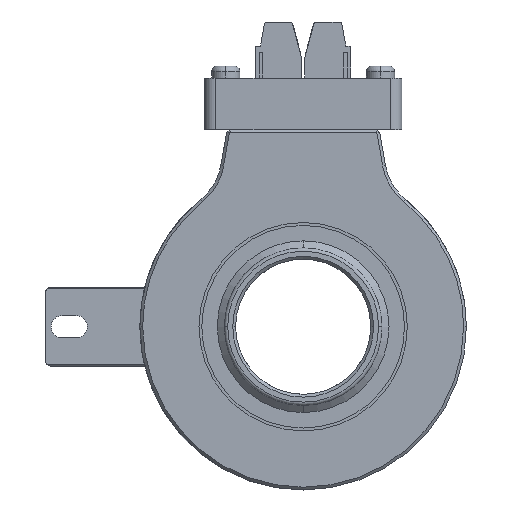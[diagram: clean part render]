
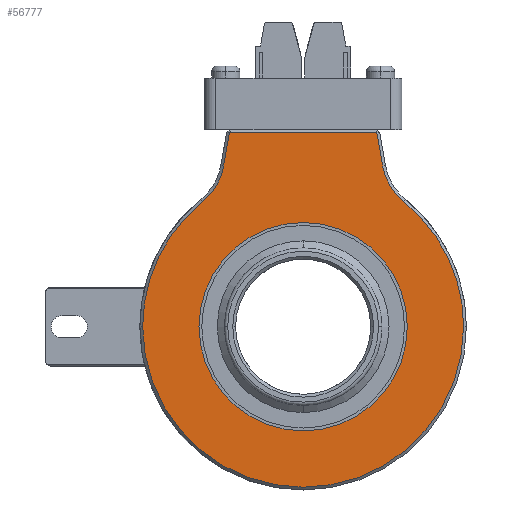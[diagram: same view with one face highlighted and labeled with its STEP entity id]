
A CAD part, left-side view. The second image highlights one B-rep face of the part: STEP entity #56777.
In plain terms, the highlighted planar face has unit normal (-1, 0, 0).
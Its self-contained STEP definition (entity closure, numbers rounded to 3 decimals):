
#226 = CARTESIAN_POINT ( 'NONE',  ( -27., 19.46, -1.682 ) ) ;
#596 = CARTESIAN_POINT ( 'NONE',  ( -27., 18.5, 0. ) ) ;
#755 = ORIENTED_EDGE ( 'NONE', *, *, #73921, .T. ) ;
#1826 = AXIS2_PLACEMENT_3D ( 'NONE', #51874, #52361, #20347 ) ;
#1848 = DIRECTION ( 'NONE',  ( 0., 1., 0. ) ) ;
#2343 = FACE_OUTER_BOUND ( 'NONE', #10153, .T. ) ;
#3383 = CIRCLE ( 'NONE', #1826, 28.5 ) ;
#4486 = CARTESIAN_POINT ( 'NONE',  ( -27., -28.5, 0. ) ) ;
#6566 = VERTEX_POINT ( 'NONE', #27190 ) ;
#7076 = VERTEX_POINT ( 'NONE', #96285 ) ;
#7899 = EDGE_CURVE ( 'NONE', #79160, #7076, #73267, .T. ) ;
#10153 = EDGE_LOOP ( 'NONE', ( #86526, #92249, #55178, #78159, #48212, #57524, #50231, #11897 ) ) ;
#10500 = CARTESIAN_POINT ( 'NONE',  ( -27., 0., 0. ) ) ;
#11276 = CARTESIAN_POINT ( 'NONE',  ( -27., 29., 34.5 ) ) ;
#11897 = ORIENTED_EDGE ( 'NONE', *, *, #72899, .T. ) ;
#15493 = AXIS2_PLACEMENT_3D ( 'NONE', #67565, #44046, #59556 ) ;
#16832 = DIRECTION ( 'NONE',  ( 0., -1., 0. ) ) ;
#17399 = VECTOR ( 'NONE', #75781, 1000. ) ;
#17401 = EDGE_CURVE ( 'NONE', #33168, #38151, #76129, .T. ) ;
#17829 = FACE_BOUND ( 'NONE', #42127, .T. ) ;
#18319 = DIRECTION ( 'NONE',  ( -1., 0., 0. ) ) ;
#18357 = AXIS2_PLACEMENT_3D ( 'NONE', #10500, #41026, #34019 ) ;
#19381 = DIRECTION ( 'NONE',  ( -1., 0., 0. ) ) ;
#20347 = DIRECTION ( 'NONE',  ( 0., -1., 0. ) ) ;
#20360 = CIRCLE ( 'NONE', #44296, 10.5 ) ;
#20753 = DIRECTION ( 'NONE',  ( 0., -1., 0. ) ) ;
#24841 = CARTESIAN_POINT ( 'NONE',  ( -27., 29., 0. ) ) ;
#27190 = CARTESIAN_POINT ( 'NONE',  ( -27., 17.883, 22.191 ) ) ;
#28034 = AXIS2_PLACEMENT_3D ( 'NONE', #24841, #18319, #16832 ) ;
#30104 = CIRCLE ( 'NONE', #33562, 28.5 ) ;
#31886 = CARTESIAN_POINT ( 'NONE',  ( -27., -14.131, 28.544 ) ) ;
#33006 = CIRCLE ( 'NONE', #90548, 18.5 ) ;
#33168 = VERTEX_POINT ( 'NONE', #84394 ) ;
#33562 = AXIS2_PLACEMENT_3D ( 'NONE', #49402, #19381, #42879 ) ;
#34019 = DIRECTION ( 'NONE',  ( 0., 1., 0. ) ) ;
#35246 = CARTESIAN_POINT ( 'NONE',  ( -27., 13.08, 34.5 ) ) ;
#36666 = EDGE_CURVE ( 'NONE', #54996, #6566, #53878, .T. ) ;
#38151 = VERTEX_POINT ( 'NONE', #4486 ) ;
#41026 = DIRECTION ( 'NONE',  ( 1., 0., 0. ) ) ;
#41823 = CARTESIAN_POINT ( 'NONE',  ( -27., 0., 0. ) ) ;
#42127 = EDGE_LOOP ( 'NONE', ( #86074, #755 ) ) ;
#42390 = CARTESIAN_POINT ( 'NONE',  ( -27., 0., 0. ) ) ;
#42784 = LINE ( 'NONE', #11276, #61234 ) ;
#42879 = DIRECTION ( 'NONE',  ( 0., -1., 0. ) ) ;
#42905 = VERTEX_POINT ( 'NONE', #90349 ) ;
#44046 = DIRECTION ( 'NONE',  ( 1., 0., 0. ) ) ;
#44296 = AXIS2_PLACEMENT_3D ( 'NONE', #51293, #80805, #20753 ) ;
#46473 = EDGE_CURVE ( 'NONE', #90840, #42905, #90249, .T. ) ;
#48212 = ORIENTED_EDGE ( 'NONE', *, *, #87910, .T. ) ;
#49402 = CARTESIAN_POINT ( 'NONE',  ( -27., 0., 0. ) ) ;
#50231 = ORIENTED_EDGE ( 'NONE', *, *, #51891, .T. ) ;
#50266 = CARTESIAN_POINT ( 'NONE',  ( -27., -17.711, 8.236 ) ) ;
#51039 = EDGE_CURVE ( 'NONE', #61686, #54996, #52282, .T. ) ;
#51293 = CARTESIAN_POINT ( 'NONE',  ( -27., -24.471, 30.367 ) ) ;
#51874 = CARTESIAN_POINT ( 'NONE',  ( -27., 0., 0. ) ) ;
#51891 = EDGE_CURVE ( 'NONE', #38151, #74801, #30104, .T. ) ;
#52282 = LINE ( 'NONE', #226, #17399 ) ;
#52361 = DIRECTION ( 'NONE',  ( -1., 0., 0. ) ) ;
#53878 = CIRCLE ( 'NONE', #15493, 10.5 ) ;
#54996 = VERTEX_POINT ( 'NONE', #64492 ) ;
#55178 = ORIENTED_EDGE ( 'NONE', *, *, #51039, .T. ) ;
#55877 = PLANE ( 'NONE',  #28034 ) ;
#56777 = ADVANCED_FACE ( 'NONE', ( #2343, #17829 ), #55877, .T. ) ;
#57524 = ORIENTED_EDGE ( 'NONE', *, *, #17401, .T. ) ;
#59556 = DIRECTION ( 'NONE',  ( 0., -1., 0. ) ) ;
#61234 = VECTOR ( 'NONE', #71347, 1000. ) ;
#61686 = VERTEX_POINT ( 'NONE', #35246 ) ;
#64492 = CARTESIAN_POINT ( 'NONE',  ( -27., 14.131, 28.544 ) ) ;
#67565 = CARTESIAN_POINT ( 'NONE',  ( -27., 24.471, 30.367 ) ) ;
#70880 = DIRECTION ( 'NONE',  ( 1., 0., 0. ) ) ;
#71347 = DIRECTION ( 'NONE',  ( 0., 1., 0. ) ) ;
#72899 = EDGE_CURVE ( 'NONE', #74801, #79160, #20360, .T. ) ;
#73267 = LINE ( 'NONE', #50266, #96102 ) ;
#73921 = EDGE_CURVE ( 'NONE', #42905, #90840, #33006, .T. ) ;
#74801 = VERTEX_POINT ( 'NONE', #85245 ) ;
#75118 = DIRECTION ( 'NONE',  ( 0., 0.174, 0.985 ) ) ;
#75781 = DIRECTION ( 'NONE',  ( 0., 0.174, -0.985 ) ) ;
#76129 = CIRCLE ( 'NONE', #84108, 28.5 ) ;
#78159 = ORIENTED_EDGE ( 'NONE', *, *, #36666, .T. ) ;
#79160 = VERTEX_POINT ( 'NONE', #31886 ) ;
#80805 = DIRECTION ( 'NONE',  ( 1., 0., 0. ) ) ;
#84108 = AXIS2_PLACEMENT_3D ( 'NONE', #42390, #95883, #96385 ) ;
#84394 = CARTESIAN_POINT ( 'NONE',  ( -27., 28.5, 0. ) ) ;
#85245 = CARTESIAN_POINT ( 'NONE',  ( -27., -17.883, 22.191 ) ) ;
#86074 = ORIENTED_EDGE ( 'NONE', *, *, #46473, .T. ) ;
#86526 = ORIENTED_EDGE ( 'NONE', *, *, #7899, .T. ) ;
#87910 = EDGE_CURVE ( 'NONE', #6566, #33168, #3383, .T. ) ;
#90196 = EDGE_CURVE ( 'NONE', #7076, #61686, #42784, .T. ) ;
#90249 = CIRCLE ( 'NONE', #18357, 18.5 ) ;
#90349 = CARTESIAN_POINT ( 'NONE',  ( -27., -18.5, 0. ) ) ;
#90548 = AXIS2_PLACEMENT_3D ( 'NONE', #41823, #70880, #1848 ) ;
#90840 = VERTEX_POINT ( 'NONE', #596 ) ;
#92249 = ORIENTED_EDGE ( 'NONE', *, *, #90196, .T. ) ;
#95883 = DIRECTION ( 'NONE',  ( -1., 0., 0. ) ) ;
#96102 = VECTOR ( 'NONE', #75118, 1000. ) ;
#96285 = CARTESIAN_POINT ( 'NONE',  ( -27., -13.08, 34.5 ) ) ;
#96385 = DIRECTION ( 'NONE',  ( 0., -1., 0. ) ) ;
